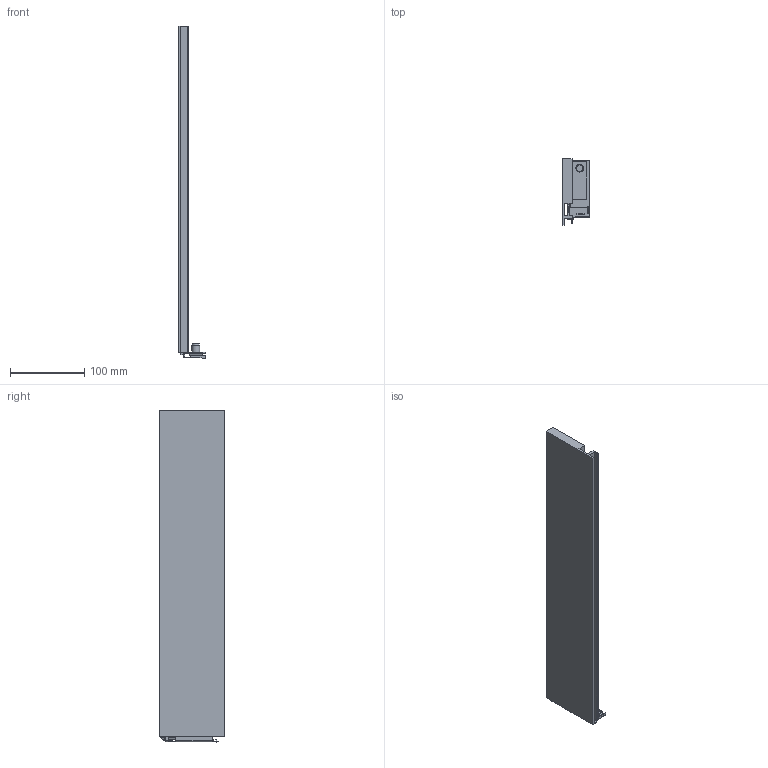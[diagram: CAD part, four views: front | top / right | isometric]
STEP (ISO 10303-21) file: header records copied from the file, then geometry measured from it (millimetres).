
FILE_DESCRIPTION (( 'STEP AP214' ), '1' );
FILE_NAME ('Vionaro_Alu-Zarge_H89_NL450_LI.STEP', '2014-08-18T10:00:02', ( '' ), ( '' ), 'SwSTEP 2.0', 'SolidWorks 2013', '' );
FILE_SCHEMA (( 'AUTOMOTIVE_DESIGN' ));
Length unit declared in the file: millimetre
Products named in the file (1): Vionaro_Alu-Zarge_H89_NL450_LI
Bounding box: 35.6 x 89 x 447.9 mm (x, y, z)
Volume: 400590.8 mm3; surface area: 115774.5 mm2
Topology: 1 solids, 1 shells, 101 faces, 272 edges, 178 vertices
Faces by surface type: plane 81, cylinder 16, cone 4
Entity records: 3162 total; most frequent: CARTESIAN_POINT 558, ORIENTED_EDGE 544, DIRECTION 512, EDGE_CURVE 272, VECTOR 232, LINE 232, VERTEX_POINT 178, AXIS2_PLACEMENT_3D 140
